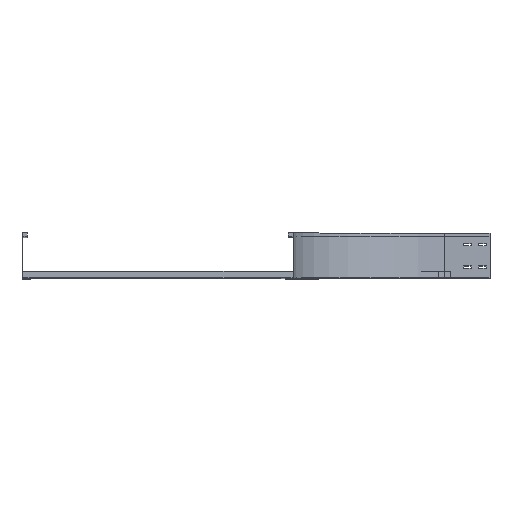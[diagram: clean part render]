
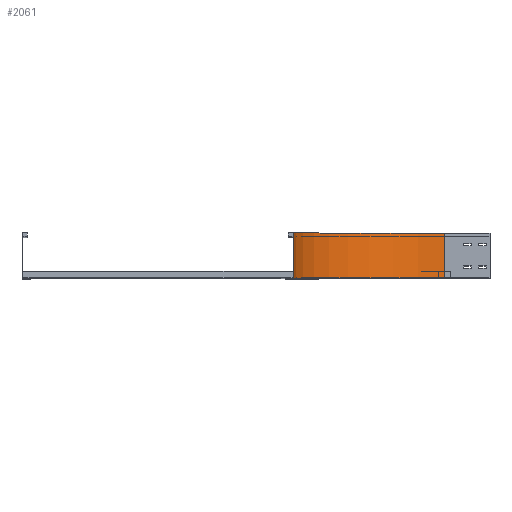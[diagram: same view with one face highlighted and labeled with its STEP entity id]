
A CAD part, top view. The second image highlights one B-rep face of the part: STEP entity #2061.
In plain terms, the highlighted cylindrical face has radius 500 mm (diameter 1000 mm), a partial arc.
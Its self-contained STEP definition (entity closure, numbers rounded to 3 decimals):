
#234 = DIRECTION ( 'NONE',  ( -1., 0., 0. ) ) ;
#295 = VECTOR ( 'NONE', #2182, 1000. ) ;
#393 = CARTESIAN_POINT ( 'NONE',  ( 500., 0., -650. ) ) ;
#542 = VERTEX_POINT ( 'NONE', #393 ) ;
#632 = EDGE_CURVE ( 'NONE', #542, #1962, #2671, .T. ) ;
#649 = VERTEX_POINT ( 'NONE', #2461 ) ;
#788 = DIRECTION ( 'NONE',  ( 0., -1., 0. ) ) ;
#846 = EDGE_CURVE ( 'NONE', #1692, #542, #1753, .T. ) ;
#857 = DIRECTION ( 'NONE',  ( 0., -1., 0. ) ) ;
#1055 = LINE ( 'NONE', #3013, #2194 ) ;
#1366 = AXIS2_PLACEMENT_3D ( 'NONE', #3799, #788, #1859 ) ;
#1373 = ORIENTED_EDGE ( 'NONE', *, *, #3210, .F. ) ;
#1395 = AXIS2_PLACEMENT_3D ( 'NONE', #3889, #3910, #4215 ) ;
#1418 = ORIENTED_EDGE ( 'NONE', *, *, #3053, .F. ) ;
#1692 = VERTEX_POINT ( 'NONE', #3216 ) ;
#1709 = AXIS2_PLACEMENT_3D ( 'NONE', #4167, #857, #234 ) ;
#1753 = CIRCLE ( 'NONE', #1395, 500. ) ;
#1859 = DIRECTION ( 'NONE',  ( 0., 0., -1. ) ) ;
#1961 = ORIENTED_EDGE ( 'NONE', *, *, #632, .T. ) ;
#1962 = VERTEX_POINT ( 'NONE', #3336 ) ;
#2017 = DIRECTION ( 'NONE',  ( 0., 1., 0. ) ) ;
#2061 = ADVANCED_FACE ( 'NONE', ( #4099 ), #3507, .F. ) ;
#2182 = DIRECTION ( 'NONE',  ( 0., 1., 0. ) ) ;
#2194 = VECTOR ( 'NONE', #2017, 1000. ) ;
#2461 = CARTESIAN_POINT ( 'NONE',  ( 0., 150., -150. ) ) ;
#2671 = LINE ( 'NONE', #3998, #295 ) ;
#3013 = CARTESIAN_POINT ( 'NONE',  ( 0., 0., -150. ) ) ;
#3053 = EDGE_CURVE ( 'NONE', #649, #1962, #3587, .T. ) ;
#3210 = EDGE_CURVE ( 'NONE', #1692, #649, #1055, .T. ) ;
#3216 = CARTESIAN_POINT ( 'NONE',  ( 0., 0., -150. ) ) ;
#3300 = EDGE_LOOP ( 'NONE', ( #1418, #1373, #3752, #1961 ) ) ;
#3336 = CARTESIAN_POINT ( 'NONE',  ( 500., 150., -650. ) ) ;
#3507 = CYLINDRICAL_SURFACE ( 'NONE', #1366, 500. ) ;
#3587 = CIRCLE ( 'NONE', #1709, 500. ) ;
#3752 = ORIENTED_EDGE ( 'NONE', *, *, #846, .T. ) ;
#3799 = CARTESIAN_POINT ( 'NONE',  ( 500., 0., -150. ) ) ;
#3889 = CARTESIAN_POINT ( 'NONE',  ( 500., 0., -150. ) ) ;
#3910 = DIRECTION ( 'NONE',  ( 0., -1., 0. ) ) ;
#3998 = CARTESIAN_POINT ( 'NONE',  ( 500., 0., -650. ) ) ;
#4099 = FACE_OUTER_BOUND ( 'NONE', #3300, .T. ) ;
#4167 = CARTESIAN_POINT ( 'NONE',  ( 500., 150., -150. ) ) ;
#4215 = DIRECTION ( 'NONE',  ( -1., 0., 0. ) ) ;
